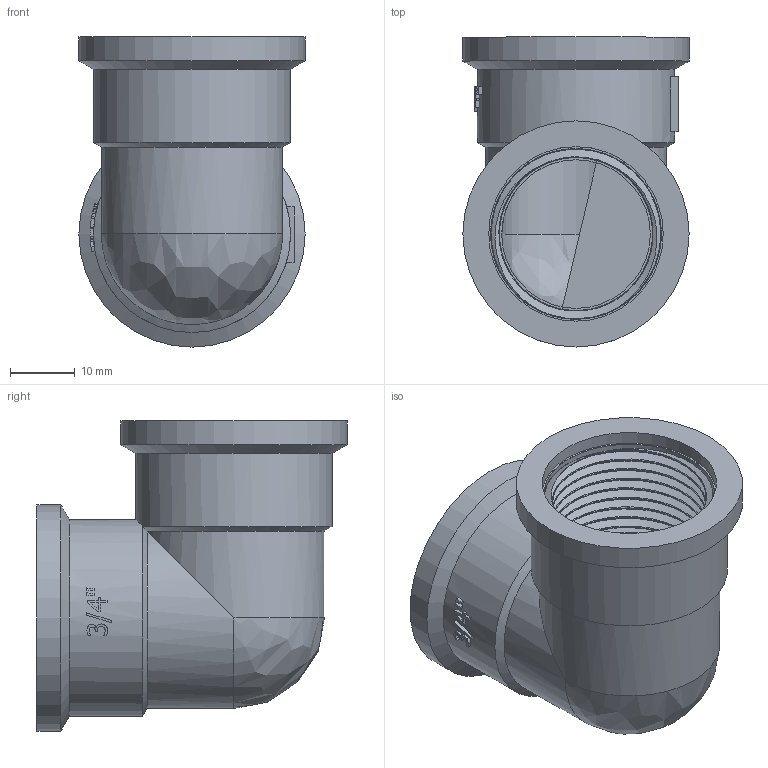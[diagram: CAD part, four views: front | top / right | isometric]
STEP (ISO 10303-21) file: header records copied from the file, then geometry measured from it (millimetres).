
FILE_DESCRIPTION(/* description */ (''),/* implementation_level */ '2;1');
FILE_NAME(/* name */ 'C:\Users\Doom\Desktop\Фадотех\Резьба\U02 18.03.2020\U02 18.03.2020.stp',/* time_stamp */ '2022-01-20T15:08:33+02:00',/* author */ ('Doom'),/* organization */ (''),/* preprocessor_version */ 'ST-DEVELOPER v18',/* originating_system */ 'Autodesk Inventor 2020',/* authorisation */ '');
FILE_SCHEMA (('AUTOMOTIVE_DESIGN { 1 0 10303 214 3 1 1 }'));
Length unit declared in the file: millimetre
Products named in the file (1): U01C 18.03.2020
Bounding box: 35 x 48 x 48 mm (x, y, z)
Volume: 16758.2 mm3; surface area: 19607.7 mm2
Topology: 3 solids, 3 shells, 150 faces, 412 edges, 271 vertices
Faces by surface type: plane 65, cylinder 44, bspline 37, cone 4
Full cylindrical faces by diameter (mm): 23 x2, 23.71 x20, 26.4 x4, 27 x2, 30.4 x1, 30.5 x1, 35 x2
Entity records: 15110 total; most frequent: CARTESIAN_POINT 11553, ORIENTED_EDGE 800, DIRECTION 610, EDGE_CURVE 400, VERTEX_POINT 267, AXIS2_PLACEMENT_3D 222, EDGE_LOOP 169, LINE 166
